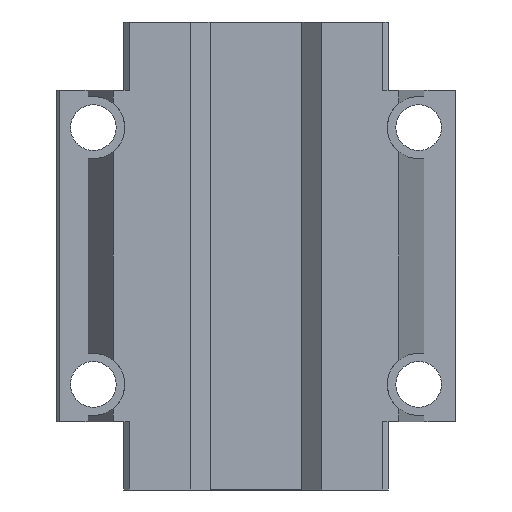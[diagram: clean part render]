
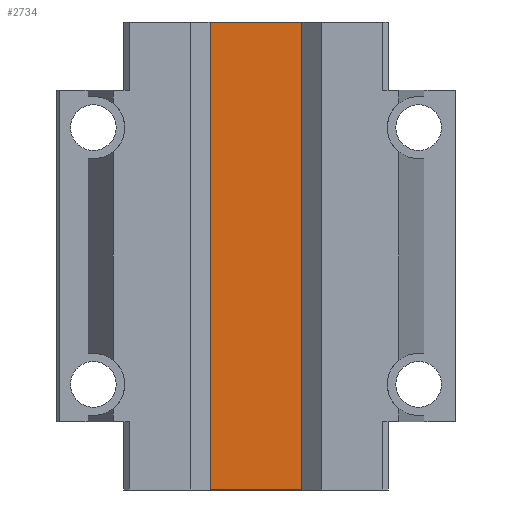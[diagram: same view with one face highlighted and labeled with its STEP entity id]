
A CAD part, front view. The second image highlights one B-rep face of the part: STEP entity #2734.
In plain terms, the highlighted planar face has unit normal (0, -1, 0).
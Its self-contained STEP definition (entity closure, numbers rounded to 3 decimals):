
#80 = CARTESIAN_POINT ( 'NONE',  ( -8.05, 22., 41. ) ) ;
#424 = CARTESIAN_POINT ( 'NONE',  ( 8.05, 22., 41. ) ) ;
#434 = CARTESIAN_POINT ( 'NONE',  ( -11.5, 22., -38.5 ) ) ;
#818 = VECTOR ( 'NONE', #4766, 1000. ) ;
#972 = EDGE_LOOP ( 'NONE', ( #1171, #3185, #4718, #2847 ) ) ;
#1125 = DIRECTION ( 'NONE',  ( -1., 0., 0. ) ) ;
#1171 = ORIENTED_EDGE ( 'NONE', *, *, #6392, .F. ) ;
#1194 = CARTESIAN_POINT ( 'NONE',  ( -11.5, 22., 41. ) ) ;
#1507 = DIRECTION ( 'NONE',  ( 0., 1., 0. ) ) ;
#1710 = FACE_OUTER_BOUND ( 'NONE', #972, .T. ) ;
#1972 = VECTOR ( 'NONE', #1125, 1000. ) ;
#2089 = VECTOR ( 'NONE', #2538, 1000. ) ;
#2275 = DIRECTION ( 'NONE',  ( 0., 0., 1. ) ) ;
#2538 = DIRECTION ( 'NONE',  ( 0., 0., -1. ) ) ;
#2604 = CARTESIAN_POINT ( 'NONE',  ( 8.05, 22., -41. ) ) ;
#2734 = ADVANCED_FACE ( 'NONE', ( #1710 ), #3031, .F. ) ;
#2800 = CARTESIAN_POINT ( 'NONE',  ( -8.05, 22., -38.5 ) ) ;
#2847 = ORIENTED_EDGE ( 'NONE', *, *, #3840, .F. ) ;
#3031 = PLANE ( 'NONE',  #3958 ) ;
#3182 = LINE ( 'NONE', #2800, #5738 ) ;
#3185 = ORIENTED_EDGE ( 'NONE', *, *, #4735, .F. ) ;
#3483 = LINE ( 'NONE', #6616, #2089 ) ;
#3529 = LINE ( 'NONE', #6240, #1972 ) ;
#3810 = VERTEX_POINT ( 'NONE', #80 ) ;
#3840 = EDGE_CURVE ( 'NONE', #3810, #5328, #6131, .T. ) ;
#3958 = AXIS2_PLACEMENT_3D ( 'NONE', #434, #1507, #5085 ) ;
#4064 = EDGE_CURVE ( 'NONE', #5328, #4196, #3483, .T. ) ;
#4196 = VERTEX_POINT ( 'NONE', #2604 ) ;
#4718 = ORIENTED_EDGE ( 'NONE', *, *, #4064, .F. ) ;
#4735 = EDGE_CURVE ( 'NONE', #4196, #5935, #3529, .T. ) ;
#4766 = DIRECTION ( 'NONE',  ( 1., 0., 0. ) ) ;
#5085 = DIRECTION ( 'NONE',  ( 0., 0., 1. ) ) ;
#5328 = VERTEX_POINT ( 'NONE', #424 ) ;
#5738 = VECTOR ( 'NONE', #2275, 1000. ) ;
#5935 = VERTEX_POINT ( 'NONE', #6089 ) ;
#6089 = CARTESIAN_POINT ( 'NONE',  ( -8.05, 22., -41. ) ) ;
#6131 = LINE ( 'NONE', #1194, #818 ) ;
#6240 = CARTESIAN_POINT ( 'NONE',  ( -11.5, 22., -41. ) ) ;
#6392 = EDGE_CURVE ( 'NONE', #5935, #3810, #3182, .T. ) ;
#6616 = CARTESIAN_POINT ( 'NONE',  ( 8.05, 22., -38.5 ) ) ;
